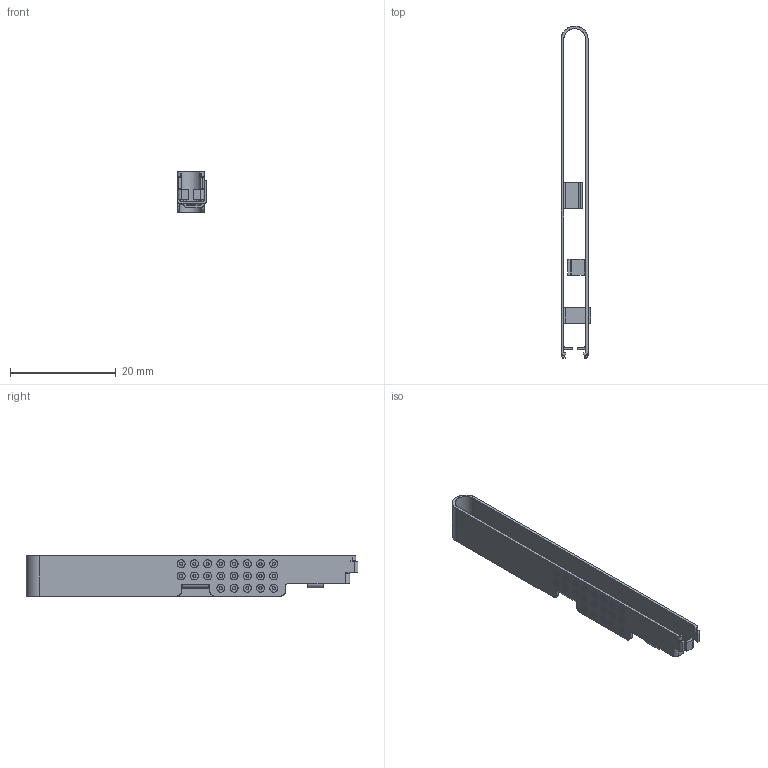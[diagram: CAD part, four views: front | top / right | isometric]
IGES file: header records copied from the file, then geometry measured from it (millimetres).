
Start section: SolidWorks IGES file using analytic representation for surfaces
Bounding box: 5.6 x 62.69 x 7.6 mm (x, y, z)
Surface area: 2073.9 mm2 (no closed solid volume)
Topology: 0 solids, 0 shells, 356 faces, 4262 edges, 4262 vertices
Faces by surface type: revolution 203, bspline 153
